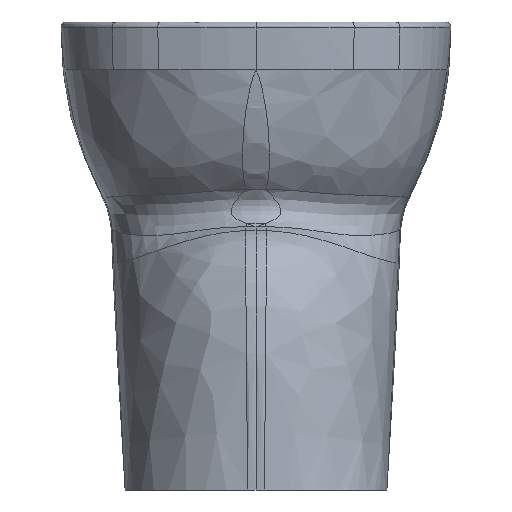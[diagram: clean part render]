
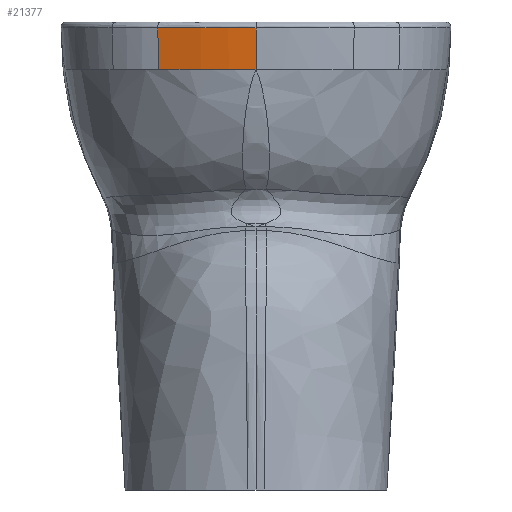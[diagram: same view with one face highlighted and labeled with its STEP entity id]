
A CAD part, left-side view. The second image highlights one B-rep face of the part: STEP entity #21377.
In plain terms, the highlighted free-form (B-spline) face has degree [5, 1] with [6, 2] control points.
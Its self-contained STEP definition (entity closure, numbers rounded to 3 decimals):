
#5730=CARTESIAN_POINT('Vertex',(3.007,0.,-43.)) ;
#5830=CARTESIAN_POINT('Vertex',(15.595,87.383,-43.)) ;
#5834=CARTESIAN_POINT('Control Point',(15.595,87.383,-43.)) ;
#5835=CARTESIAN_POINT('Control Point',(10.772,70.642,-43.)) ;
#5836=CARTESIAN_POINT('Control Point',(7.017,53.597,-43.)) ;
#5837=CARTESIAN_POINT('Control Point',(4.432,36.321,-43.)) ;
#5838=CARTESIAN_POINT('Control Point',(3.073,18.612,-43.)) ;
#5839=CARTESIAN_POINT('Control Point',(3.008,0.896,-43.)) ;
#5840=CARTESIAN_POINT('Control Point',(3.007,0.597,-43.)) ;
#5841=CARTESIAN_POINT('Control Point',(3.007,0.299,-43.)) ;
#5842=CARTESIAN_POINT('Control Point',(3.007,0.,-43.)) ;
#21310=CARTESIAN_POINT('Control Point',(15.722,87.347,-44.89)) ;
#21311=CARTESIAN_POINT('Control Point',(12.705,88.216,0.)) ;
#21312=CARTESIAN_POINT('Control Point',(10.817,70.321,-44.89)) ;
#21313=CARTESIAN_POINT('Control Point',(7.756,71.034,0.)) ;
#21314=CARTESIAN_POINT('Control Point',(7.018,52.987,-44.89)) ;
#21315=CARTESIAN_POINT('Control Point',(3.919,53.531,0.)) ;
#21316=CARTESIAN_POINT('Control Point',(4.432,35.415,-44.89)) ;
#21317=CARTESIAN_POINT('Control Point',(1.306,35.782,0.)) ;
#21318=CARTESIAN_POINT('Control Point',(3.139,17.707,-44.89)) ;
#21319=CARTESIAN_POINT('Control Point',(0.,17.891,0.)) ;
#21320=CARTESIAN_POINT('Control Point',(3.139,0.,-44.89)) ;
#21321=CARTESIAN_POINT('Control Point',(0.,0.,0.)) ;
#21323=CARTESIAN_POINT('Control Point',(13.065,88.112,-5.349)) ;
#21324=CARTESIAN_POINT('Control Point',(12.447,85.968,-5.349)) ;
#21325=CARTESIAN_POINT('Control Point',(11.846,83.818,-5.349)) ;
#21326=CARTESIAN_POINT('Control Point',(11.264,81.665,-5.349)) ;
#21327=CARTESIAN_POINT('Control Point',(10.134,77.347,-5.349)) ;
#21328=CARTESIAN_POINT('Control Point',(9.076,73.01,-5.349)) ;
#21329=CARTESIAN_POINT('Control Point',(8.565,70.838,-5.349)) ;
#21330=CARTESIAN_POINT('Control Point',(7.087,64.307,-5.349)) ;
#21331=CARTESIAN_POINT('Control Point',(5.776,57.739,-5.349)) ;
#21332=CARTESIAN_POINT('Control Point',(4.978,53.345,-5.349)) ;
#21333=CARTESIAN_POINT('Control Point',(3.536,44.531,-5.349)) ;
#21334=CARTESIAN_POINT('Control Point',(2.406,35.67,-5.349)) ;
#21335=CARTESIAN_POINT('Control Point',(1.92,31.23,-5.349)) ;
#21336=CARTESIAN_POINT('Control Point',(1.311,24.557,-5.349)) ;
#21337=CARTESIAN_POINT('Control Point',(0.884,17.87,-5.349)) ;
#21338=CARTESIAN_POINT('Control Point',(0.762,15.64,-5.349)) ;
#21339=CARTESIAN_POINT('Control Point',(0.609,12.292,-5.349)) ;
#21340=CARTESIAN_POINT('Control Point',(0.502,8.943,-5.349)) ;
#21341=CARTESIAN_POINT('Control Point',(0.471,7.827,-5.349)) ;
#21342=CARTESIAN_POINT('Control Point',(0.427,5.897,-5.349)) ;
#21343=CARTESIAN_POINT('Control Point',(0.398,3.967,-5.349)) ;
#21344=CARTESIAN_POINT('Control Point',(0.389,3.154,-5.349)) ;
#21345=CARTESIAN_POINT('Control Point',(0.379,2.037,-5.349)) ;
#21346=CARTESIAN_POINT('Control Point',(0.375,0.92,-5.349)) ;
#21347=CARTESIAN_POINT('Control Point',(0.374,0.607,-5.349)) ;
#21348=CARTESIAN_POINT('Control Point',(0.374,0.304,-5.349)) ;
#21349=CARTESIAN_POINT('Control Point',(0.374,0.,-5.349)) ;
#21350=CARTESIAN_POINT('Vertex',(0.374,0.,-5.349)) ;
#21352=CARTESIAN_POINT('Vertex',(13.065,88.112,-5.349)) ;
#21356=CARTESIAN_POINT('Control Point',(3.007,0.,-43.)) ;
#21357=CARTESIAN_POINT('Control Point',(2.48,0.,-35.47)) ;
#21358=CARTESIAN_POINT('Control Point',(1.954,0.,-27.94)) ;
#21359=CARTESIAN_POINT('Control Point',(1.427,0.,-20.409)) ;
#21360=CARTESIAN_POINT('Control Point',(0.901,0.,-12.879)) ;
#21361=CARTESIAN_POINT('Control Point',(0.374,0.,-5.349)) ;
#21364=CARTESIAN_POINT('Control Point',(15.595,87.383,-43.)) ;
#21365=CARTESIAN_POINT('Control Point',(15.089,87.529,-35.47)) ;
#21366=CARTESIAN_POINT('Control Point',(14.583,87.675,-27.94)) ;
#21367=CARTESIAN_POINT('Control Point',(14.077,87.821,-20.409)) ;
#21368=CARTESIAN_POINT('Control Point',(13.571,87.966,-12.879)) ;
#21369=CARTESIAN_POINT('Control Point',(13.065,88.112,-5.349)) ;
#21372=ORIENTED_EDGE('',*,*,#21354,.F.) ;
#21373=ORIENTED_EDGE('',*,*,#21362,.F.) ;
#21374=ORIENTED_EDGE('',*,*,#5843,.F.) ;
#21375=ORIENTED_EDGE('',*,*,#21370,.T.) ;
#21377=ADVANCED_FACE('Raccordo su spigolo.7',(#21376),#21309,.F.) ;
#5833=B_SPLINE_CURVE_WITH_KNOTS('',5,(#5834,#5835,#5836,#5837,#5838,#5839,#5840,#5841,#5842),.UNSPECIFIED.,.F.,.U.,(6,3,6),(0.,123.453,125.569),.UNSPECIFIED.) ;
#21322=B_SPLINE_CURVE_WITH_KNOTS('',5,(#21323,#21324,#21325,#21326,#21327,#21328,#21329,#21330,#21331,#21332,#21333,#21334,#21335,#21336,#21337,#21338,#21339,#21340,#21341,#21342,#21343,#21344,#21345,#21346,#21347,#21348,#21349),.UNSPECIFIED.,.F.,.U.,(6,3,3,3,3,3,3,3,6),(76.835,92.472,108.108,139.381,170.653,186.29,194.108,199.801,201.926),.UNSPECIFIED.) ;
#21355=B_SPLINE_CURVE_WITH_KNOTS('',5,(#21356,#21357,#21358,#21359,#21360,#21361),.UNSPECIFIED.,.F.,.U.,(6,6),(1.895,39.638),.UNSPECIFIED.) ;
#21363=B_SPLINE_CURVE_WITH_KNOTS('',5,(#21364,#21365,#21366,#21367,#21368,#21369),.UNSPECIFIED.,.F.,.U.,(6,6),(1.895,39.638),.UNSPECIFIED.) ;
#21309=B_SPLINE_SURFACE_WITH_KNOTS('',5,1,((#21310,#21311),(#21312,#21313),(#21314,#21315),(#21316,#21317),(#21318,#21319),(#21320,#21321)),.UNSPECIFIED.,.F.,.F.,.U.,(6,6),(2,2),(0.,88.997),(0.,45.),.UNSPECIFIED.) ;
#5843=EDGE_CURVE('',#5831,#5731,#5833,.T.) ;
#21354=EDGE_CURVE('',#21351,#21353,#21322,.F.) ;
#21362=EDGE_CURVE('',#5731,#21351,#21355,.T.) ;
#21370=EDGE_CURVE('',#5831,#21353,#21363,.T.) ;
#21371=EDGE_LOOP('',(#21372,#21373,#21374,#21375)) ;
#21376=FACE_OUTER_BOUND('',#21371,.T.) ;
#5731=VERTEX_POINT('',#5730) ;
#5831=VERTEX_POINT('',#5830) ;
#21351=VERTEX_POINT('',#21350) ;
#21353=VERTEX_POINT('',#21352) ;
